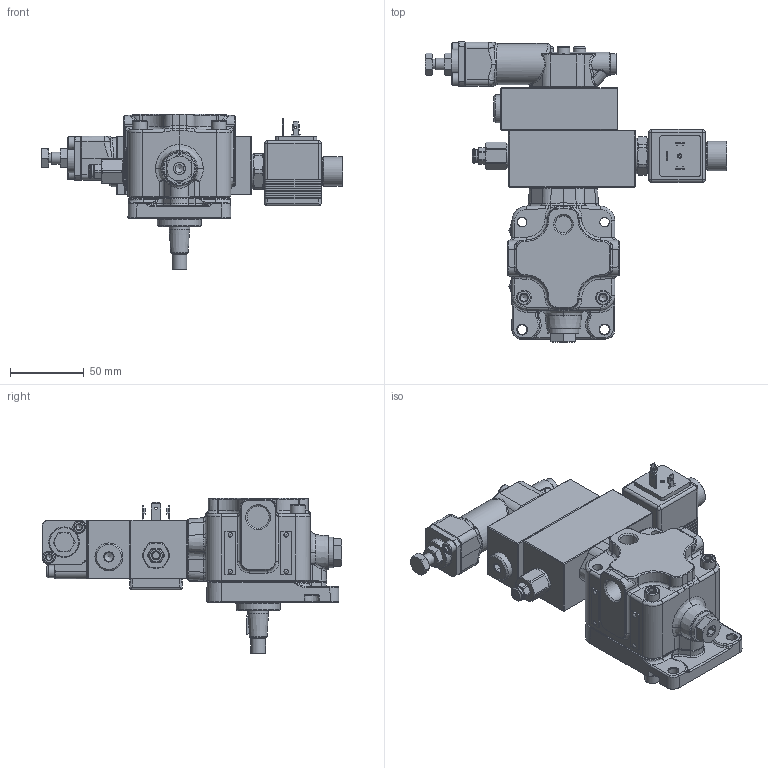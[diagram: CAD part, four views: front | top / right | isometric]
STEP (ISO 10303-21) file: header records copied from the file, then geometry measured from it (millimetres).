
FILE_DESCRIPTION(/* description */ (''),/* implementation_level */ '2;1');
FILE_NAME(/* name */ 'W:\Tecnico\A-Archivio\Modelli 3D\23\2300811140_Semplifica_1.stp',/* time_stamp */ '2022-04-13T13:39:39+02:00',/* author */ ('marcop'),/* organization */ (''),/* preprocessor_version */ 'ST-DEVELOPER v18.1',/* originating_system */ 'Autodesk Inventor 2022',/* authorisation */ '');
FILE_SCHEMA (('AUTOMOTIVE_DESIGN { 1 0 10303 214 3 1 1 }'));
Products named in the file (1): 2300811140_Semplifica_1
Bounding box: 205.15 x 204 x 106 mm (x, y, z)
Volume: 741149.7 mm3; surface area: 106712.1 mm2
Topology: 3 solids, 3 shells, 1437 faces, 3459 edges, 2081 vertices
Faces by surface type: plane 636, bspline 261, cylinder 251, cone 239, torus 36, sphere 14
Full cylindrical faces by diameter (mm): 1.6 x2, 1.65 x1, 2 x3, 4.917 x3, 5 x3, 5.5 x6, 6 x2, 6.5 x9, 8 x3, 8.376 x1, 8.5 x5, 8.8 x1, 10 x4, 11.445 x3, 12.5 x1, 13.1 x3, 14 x4, 14.95 x2, 16 x1, 16.5 x1, 19 x1, 20 x3, 21 x1, 22 x2, 22.8 x1, 24 x1, 28 x1, 30 x1
Entity records: 65904 total; most frequent: CARTESIAN_POINT 32913, ORIENTED_EDGE 6878, DIRECTION 6123, EDGE_CURVE 3439, AXIS2_PLACEMENT_3D 2243, VERTEX_POINT 2081, LINE 1637, VECTOR 1637
